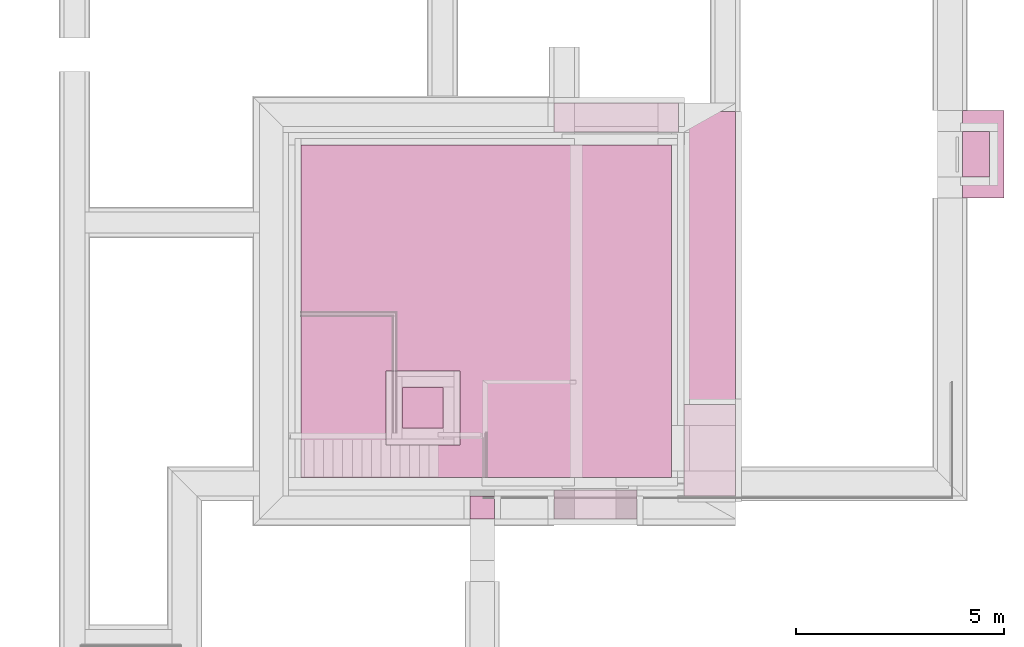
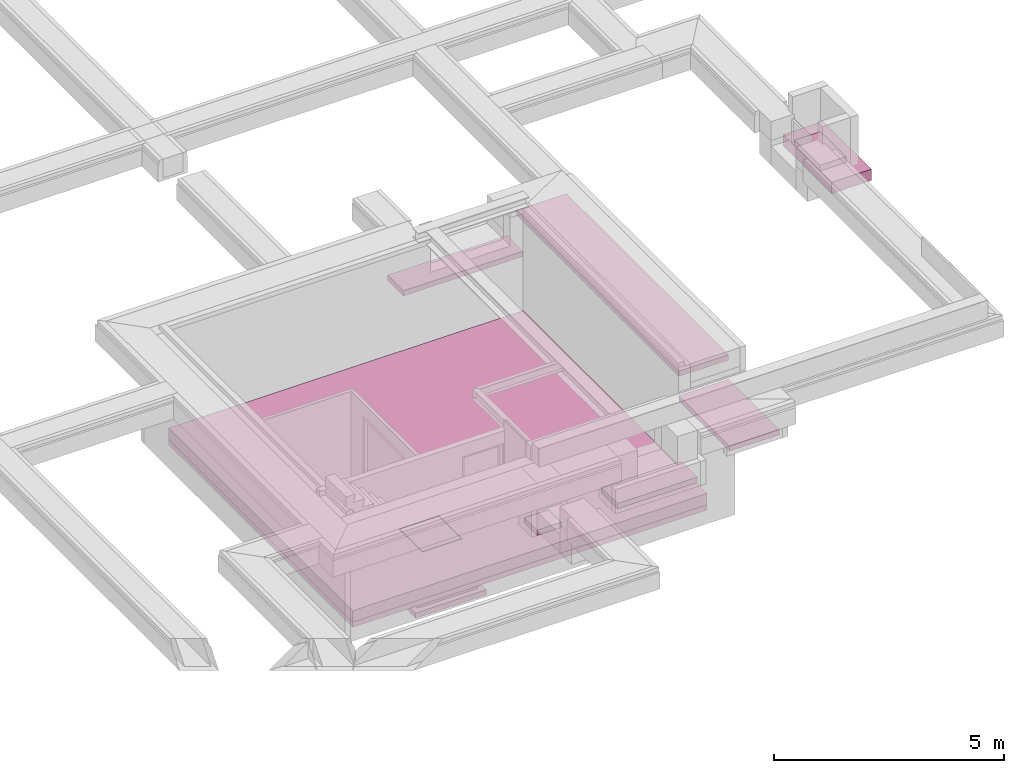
# One storey, part 8 of 11: 12 furnishings.
"""IFC2X3 building model written with IfcOpenShell, lengths in millimetres."""

from ifc_helpers import new_model, entity, si_unit, converted_unit, derived_unit, money_unit, direction, frame, origin_with_axes, place, context, subcontext, project, spatial, faceted_brep, material, type_object, element, save


model = new_model("IFC2X3")

# Units and contexts
model_context = context("Model", 3, precision=0.01, world=origin_with_axes(), true_north=direction((0.0, 1.0)))
body_context = subcontext(model_context, "Body", "Model", "MODEL_VIEW")
ifc_project = project(units=[si_unit("LENGTHUNIT", "METRE", prefix="MILLI"), si_unit("AREAUNIT", "SQUARE_METRE"), si_unit("VOLUMEUNIT", "CUBIC_METRE"), converted_unit("PLANEANGLEUNIT", "DEGREE", entity("IfcPlaneAngleMeasure", 0.0174532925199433), si_unit("PLANEANGLEUNIT", "RADIAN"), dimensions=[0, 0, 0, 0, 0, 0, 0]), money_unit("EUR"), converted_unit("TIMEUNIT", "Year", entity("IfcTimeMeasure", 31556926.0), si_unit("TIMEUNIT", "SECOND"), dimensions=[0, 0, 1, 0, 0, 0, 0]), si_unit("MASSUNIT", "GRAM", prefix="KILO"), si_unit("THERMODYNAMICTEMPERATUREUNIT", "DEGREE_CELSIUS"), si_unit("LUMINOUSINTENSITYUNIT", "LUMEN"), si_unit("ENERGYUNIT", "JOULE", prefix="MEGA"), derived_unit("THERMALCONDUCTANCEUNIT", [(si_unit("POWERUNIT", "WATT"), 1), (si_unit("LENGTHUNIT", "METRE"), -1), (si_unit("THERMODYNAMICTEMPERATUREUNIT", "KELVIN"), -1)]), derived_unit("SPECIFICHEATCAPACITYUNIT", [(si_unit("ENERGYUNIT", "JOULE"), 1), (si_unit("MASSUNIT", "GRAM", prefix="KILO"), -1), (si_unit("THERMODYNAMICTEMPERATUREUNIT", "KELVIN"), -1)]), derived_unit("MASSDENSITYUNIT", [(si_unit("MASSUNIT", "GRAM", prefix="KILO"), 1), (si_unit("VOLUMEUNIT", "CUBIC_METRE"), -1)])], contexts=[model_context])

# Site, building, storey
site_placement = place(None, origin_with_axes())
site = spatial("IfcSite", under=ifc_project, at=site_placement, Name="Site", CompositionType="ELEMENT")
building_placement = place(site_placement, origin_with_axes())
building = spatial("IfcBuilding", under=site, at=building_placement, Name="Naam gebouw", CompositionType="ELEMENT")
storey_placement = place(building_placement, frame((0.0, 0.0, -3060.0), z_axis=(0.0, 0.0, 1.0), x_axis=(1.0, 0.0, 0.0)))
storey = spatial("IfcBuildingStorey", under=building, at=storey_placement, Name="Kelder", CompositionType="ELEMENT", Elevation=-3060.0)

# Furnishings
ifc_material_1 = material(Name="Beton gewapend C vloer")
furniture_type_1 = type_object("IfcFurnitureType", Name="Beton gewapend C vloer 300", AssemblyPlace="NOTDEFINED")
furnishing_1_placement = place(storey_placement, frame((14300.00000000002, 12680.0, 0.0), z_axis=(0.0, 0.0, 1.0), x_axis=(1.0, 0.0, 0.0)))
element("IfcFurnishingElement", 1, at=furnishing_1_placement, inside=storey, type_object=furniture_type_1, material=ifc_material_1, Name="72_", ObjectType="SHELF", context=body_context, shape_type="Brep", body=[
    faceted_brep([(0.0, 0.0, 0.0), (0.0, 0.0, -299.9999999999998), (0.0, -7999.999999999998, -299.9999999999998), (0.0, -7999.999999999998, 0.0), (8900.000000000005, 0.0, 0.0), (8900.000000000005, 0.0, -299.9999999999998), (8900.000000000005, -7999.999999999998, -299.9999999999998), (3424.661580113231, -5825.000000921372, -299.9999999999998), (2424.661580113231, -5825.000000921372, -299.9999999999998), (2424.661580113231, -6825.000000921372, -299.9999999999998), (3424.661580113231, -6825.000000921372, -299.9999999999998), (8900.000000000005, -7999.999999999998, 0.0), (2424.661580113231, -6825.000000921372, 0.0), (2424.661580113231, -5825.000000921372, 0.0), (3424.661580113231, -5825.000000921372, 0.0), (3424.661580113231, -6825.000000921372, 0.0)], [[[0, 1, 2, 3]], [[4, 5, 1, 0]], [[2, 1, 5, 6], [7, 8, 9, 10]], [[3, 2, 6, 11]], [[4, 0, 3, 11], [12, 13, 14, 15]], [[11, 6, 5, 4]], [[13, 8, 7, 14]], [[12, 9, 8, 13]], [[15, 10, 9, 12]], [[14, 7, 10, 15]]]),
])
furnishing_2_placement = place(storey_placement, frame((30200.0000001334, 13500.00011055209, 1725.0), z_axis=(0.0, 0.0, 1.0), x_axis=(1.0, 0.0, 0.0)))
element("IfcFurnishingElement", 2, at=furnishing_2_placement, inside=storey, type_object=furniture_type_1, material=ifc_material_1, Name="72_", ObjectType="SHELF", context=body_context, shape_type="Brep", body=[
    faceted_brep([(0.0, 0.0, -300.0000000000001), (0.0, -2099.999999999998, -300.0000000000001), (0.0, -2099.999999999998, 0.0), (0.0, 0.0, 0.0), (999.999999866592, 0.0, -300.0000000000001), (999.999999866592, -2099.999999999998, -300.0000000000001), (274.9999998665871, -1000.00232888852, -300.0000000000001), (274.9999998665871, -1100.00232888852, -300.0000000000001), (374.9999998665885, -1100.00232888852, -300.0000000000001), (374.9999998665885, -1000.00232888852, -300.0000000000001), (999.999999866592, -2099.999999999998, 0.0), (999.999999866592, 0.0, 0.0), (274.9999998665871, -1000.00232888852, 0.0), (374.9999998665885, -1000.00232888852, 0.0), (374.9999998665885, -1100.00232888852, 0.0), (274.9999998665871, -1100.00232888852, 0.0)], [[[0, 1, 2, 3]], [[0, 4, 5, 1], [6, 7, 8, 9]], [[1, 5, 10, 2]], [[3, 2, 10, 11], [12, 13, 14, 15]], [[4, 0, 3, 11]], [[5, 4, 11, 10]], [[7, 6, 12, 15]], [[8, 7, 15, 14]], [[9, 8, 14, 13]], [[6, 9, 13, 12]]]),
])
ifc_material_2 = material(Name="Grind")
furniture_type_2 = type_object("IfcFurnitureType", Name="Grind 150", AssemblyPlace="NOTDEFINED")
furnishing_3_placement = place(storey_placement, frame((30200.00000006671, 12999.99778166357, 1875.0), z_axis=(0.0, 0.0, 1.0), x_axis=(1.0, 0.0, 0.0)))
element("IfcFurnishingElement", 3, at=furnishing_3_placement, inside=storey, type_object=furniture_type_2, material=ifc_material_2, Name="72_", ObjectType="SHELF", context=body_context, shape_type="Brep", body=[
    faceted_brep([(0.0, 0.0, 0.0), (0.0, 0.0, -149.9999999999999), (0.0, -1100.0, -149.9999999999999), (0.0, -1100.0, 0.0), (649.9999999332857, 0.0, 0.0), (649.9999999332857, 0.0, -149.9999999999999), (649.9999999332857, -1100.0, -149.9999999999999), (649.9999999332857, -1100.0, 0.0)], [[[0, 1, 2, 3]], [[4, 5, 1, 0]], [[2, 1, 5, 6]], [[3, 2, 6, 7]], [[4, 0, 3, 7]], [[7, 6, 5, 4]]]),
])
ifc_material_3 = material(Name="Beton gewapend prefab")
furniture_type_3 = type_object("IfcFurnitureType", Name="Beton gewapend prefab 250", AssemblyPlace="NOTDEFINED")
furnishing_4_placement = place(storey_placement, frame((16474.66158011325, 7104.99999907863, -999.9999999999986), z_axis=(0.0, 0.0, 1.0), x_axis=(1.0, 0.0, 0.0)))
element("IfcFurnishingElement", 4, at=furnishing_4_placement, inside=storey, type_object=furniture_type_3, material=ifc_material_3, Name="72_", ObjectType="SHELF", context=body_context, shape_type="Brep", body=[
    faceted_brep([(0.0, 0.0, 0.0), (0.0, 0.0, -250.0), (0.0, -1500.000000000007, -250.0), (0.0, -1500.000000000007, 0.0), (1500.000000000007, 0.0, 0.0), (1500.000000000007, 0.0, -250.0), (1500.000000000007, -1500.000000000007, -250.0), (1500.000000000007, -1500.000000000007, 0.0)], [[[0, 1, 2, 3]], [[4, 5, 1, 0]], [[2, 1, 5, 6]], [[3, 2, 6, 7]], [[4, 0, 3, 7]], [[7, 6, 5, 4]]]),
])
furniture_type_4 = type_object("IfcFurnitureType", Name="Beton gewapend C vloer 50", AssemblyPlace="NOTDEFINED")
furnishing_5_placement = place(storey_placement, frame((16734.66158011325, 5864.999999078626, 0.0), z_axis=(0.0, 0.0, 1.0), x_axis=(1.0, 0.0, 0.0)))
element("IfcFurnishingElement", 5, at=furnishing_5_placement, inside=storey, type_object=furniture_type_4, material=ifc_material_1, Name="72_", ObjectType="SHELF", context=body_context, shape_type="Brep", body=[
    faceted_brep([(0.0, 0.0, 0.0), (0.0, 0.0, -49.99999999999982), (980.000000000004, 0.0, -49.99999999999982), (980.000000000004, 0.0, 0.0), (0.0, 980.0000000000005, 0.0), (0.0, 980.0000000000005, -49.99999999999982), (980.000000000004, 980.0000000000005, -49.99999999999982), (980.000000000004, 980.0000000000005, 0.0)], [[[0, 1, 2, 3]], [[4, 5, 1, 0]], [[2, 1, 5, 6]], [[3, 2, 6, 7]], [[4, 0, 3, 7]], [[7, 6, 5, 4]]]),
])
ifc_material_4 = material(Name="Isolatie - Kunststof hard")
furniture_type_5 = type_object("IfcFurnitureType", Name="Isolatie - Kunststof hard 140", AssemblyPlace="NOTDEFINED")
furnishing_6_placement = place(storey_placement, frame((14300.00000000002, 12680.0, -299.9999999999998), z_axis=(0.0, 0.0, 1.0), x_axis=(1.0, 0.0, 0.0)))
element("IfcFurnishingElement", 6, at=furnishing_6_placement, inside=storey, type_object=furniture_type_5, material=ifc_material_4, Name="72_", ObjectType="SHELF", context=body_context, shape_type="Brep", body=[
    faceted_brep([(3674.661580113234, -7075.000000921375, -140.0000000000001), (3424.661580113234, -7075.000000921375, -140.0000000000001), (3424.661580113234, -7075.000000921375, 0.0), (3674.661580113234, -7075.000000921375, 0.0), (8900.000000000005, -7999.999999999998, -140.0000000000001), (0.0, -7999.999999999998, -140.0000000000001), (0.0, 0.0, -140.0000000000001), (8900.000000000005, 0.0, -140.0000000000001), (2174.661580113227, -7075.000000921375, -140.0000000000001), (2424.661580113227, -7075.000000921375, -140.0000000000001), (3674.661580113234, -5825.000000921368, -140.0000000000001), (3674.661580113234, -5575.000000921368, -140.0000000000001), (2424.661580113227, -5575.000000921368, -140.0000000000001), (2174.661580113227, -5575.000000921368, -140.0000000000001), (2424.661580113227, -7075.000000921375, 0.0), (8900.000000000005, -7999.999999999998, 0.0), (8900.000000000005, 0.0, 0.0), (0.0, 0.0, 0.0), (0.0, -7999.999999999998, 0.0), (2174.661580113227, -7075.000000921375, 0.0), (2174.661580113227, -5575.000000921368, 0.0), (2424.661580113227, -5575.000000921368, 0.0), (3674.661580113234, -5575.000000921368, 0.0), (3674.661580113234, -5825.000000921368, 0.0)], [[[0, 1, 2, 3]], [[4, 5, 6, 7], [8, 9, 1, 0, 10, 11, 12, 13]], [[9, 14, 2, 1]], [[15, 16, 17, 18], [3, 2, 14, 19, 20, 21, 22, 23]], [[0, 3, 23, 10]], [[15, 18, 5, 4]], [[18, 17, 6, 5]], [[17, 16, 7, 6]], [[16, 15, 4, 7]], [[19, 14, 9, 8]], [[11, 10, 23, 22]], [[11, 22, 21, 12]], [[13, 12, 21, 20]], [[13, 20, 19, 8]]]),
])
furnishing_7_placement = place(storey_placement, frame((16334.66158011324, 7244.999999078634, -1250.0), z_axis=(0.0, 0.0, 1.0), x_axis=(1.0, 0.0, 0.0)))
element("IfcFurnishingElement", 7, at=furnishing_7_placement, inside=storey, type_object=furniture_type_5, material=ifc_material_4, Name="72_", ObjectType="SHELF", context=body_context, shape_type="Brep", body=[
    faceted_brep([(0.0, 0.0, 0.0), (0.0, 0.0, -139.9999999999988), (0.0, -1780.000000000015, -139.9999999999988), (0.0, -1780.000000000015, 0.0), (1780.000000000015, 0.0, 0.0), (1780.000000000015, 0.0, -139.9999999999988), (1780.000000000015, -1780.000000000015, -139.9999999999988), (1780.000000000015, -1780.000000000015, 0.0)], [[[0, 1, 2, 3]], [[4, 5, 1, 0]], [[2, 1, 5, 6]], [[3, 2, 6, 7]], [[4, 0, 3, 7]], [[7, 6, 5, 4]]]),
])
furnishing_8_placement = place(storey_placement, frame((24750.00000000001, 13480.0, 2075.0), z_axis=(0.0, 0.0, 1.0), x_axis=(1.0, 0.0, 0.0)))
element("IfcFurnishingElement", 8, at=furnishing_8_placement, inside=storey, type_object=furniture_type_5, material=ifc_material_4, Name="72_", ObjectType="SHELF", context=body_context, shape_type="Brep", body=[
    faceted_brep([(-1250.0, 0.0, 0.0), (0.0, 0.0, 0.0), (0.0, 0.0, -140.0), (-1250.0, 0.0, -140.0), (-1250.0, -7049.999999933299, 0.0), (0.0, -7049.999999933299, 0.0), (0.0, -7049.999999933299, -140.0), (-1250.0, -7049.999999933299, -140.0)], [[[0, 1, 2, 3]], [[4, 5, 1, 0]], [[1, 5, 6, 2]], [[7, 3, 2, 6]], [[4, 0, 3, 7]], [[5, 4, 7, 6]]]),
])
furnishing_9_placement = place(storey_placement, frame((24750.00000000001, 6430.000000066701, 1425.0), z_axis=(0.0, 0.0, 1.0), x_axis=(1.0, 0.0, 0.0)))
element("IfcFurnishingElement", 9, at=furnishing_9_placement, inside=storey, type_object=furniture_type_5, material=ifc_material_4, Name="72_", ObjectType="SHELF", context=body_context, shape_type="Brep", body=[
    faceted_brep([(-1250.0, 0.0, -140.0000000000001), (-1250.0, 0.0, 0.0), (0.0, 0.0, 0.0), (0.0, 0.0, -140.0000000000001), (-1250.0, -2200.000000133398, -140.0000000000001), (-1250.0, -2200.000000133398, 0.0), (0.0, -2200.000000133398, 0.0), (0.0, -2200.000000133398, -140.0000000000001)], [[[0, 1, 2, 3]], [[4, 5, 1, 0]], [[1, 5, 6, 2]], [[3, 2, 6, 7]], [[7, 4, 0, 3]], [[7, 6, 5, 4]]]),
])
furnishing_10_placement = place(storey_placement, frame((18954.99992785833, 3679.999999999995, 1325.0), z_axis=(0.0, 0.0, 1.0), x_axis=(1.0, 0.0, 0.0)))
element("IfcFurnishingElement", 10, at=furnishing_10_placement, inside=storey, type_object=furniture_type_5, material=ifc_material_4, Name="72_", ObjectType="SHELF", context=body_context, shape_type="Brep", body=[
    faceted_brep([(0.0, 549.999996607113, 0.0), (0.0, 0.0, 0.0), (0.0, 0.0, -140.0000000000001), (0.0, 549.999996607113, -140.0000000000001), (-600.0000001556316, 549.999996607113, 0.0), (-600.0000001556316, 0.0, 0.0), (-600.0000001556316, 0.0, -140.0000000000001), (-600.0000001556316, 549.999996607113, -140.0000000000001)], [[[0, 1, 2, 3]], [[4, 5, 1, 0]], [[1, 5, 6, 2]], [[7, 3, 2, 6]], [[4, 0, 3, 7]], [[5, 4, 7, 6]]]),
])
furnishing_11_placement = place(storey_placement, frame((20375.00005289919, 13680.00005568, 1325.0), z_axis=(0.0, 0.0, 1.0), x_axis=(1.0, 0.0, 0.0)))
element("IfcFurnishingElement", 11, at=furnishing_11_placement, inside=storey, type_object=furniture_type_5, material=ifc_material_4, Name="72_", ObjectType="SHELF", context=body_context, shape_type="Brep", body=[
    faceted_brep([(0.0, -690.4321499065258, -140.0000000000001), (0.0, -690.4321499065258, 0.0), (0.0, 0.0, 0.0), (0.0, 0.0, -140.0000000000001), (3000.0, -690.4321499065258, -140.0000000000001), (3000.0, -690.4321499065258, 0.0), (3000.0, 0.0, 0.0), (3000.0, 0.0, -140.0000000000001)], [[[0, 1, 2, 3]], [[4, 5, 1, 0]], [[1, 5, 6, 2]], [[3, 2, 6, 7]], [[7, 4, 0, 3]], [[7, 6, 5, 4]]]),
])
furnishing_12_placement = place(storey_placement, frame((20375.00004917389, 3679.99999028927, 1325.0), z_axis=(0.0, 0.0, 1.0), x_axis=(1.0, 0.0, 0.0)))
element("IfcFurnishingElement", 12, at=furnishing_12_placement, inside=storey, type_object=furniture_type_5, material=ifc_material_4, Name="72_", ObjectType="SHELF", context=body_context, shape_type="Brep", body=[
    faceted_brep([(2000.000077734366, -4.470352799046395e-05, -140.0000000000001), (2000.000077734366, -4.470352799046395e-05, 0.0), (0.0, 0.0, 0.0), (0.0, 0.0, -140.0000000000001), (2000.000093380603, 699.9999060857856, -140.0000000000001), (2000.000093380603, 699.9999060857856, 0.0), (1.56462363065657e-05, 699.9999507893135, 0.0), (1.56462363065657e-05, 699.9999507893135, -140.0000000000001)], [[[0, 1, 2, 3]], [[4, 5, 1, 0]], [[1, 5, 6, 2]], [[3, 2, 6, 7]], [[7, 4, 0, 3]], [[7, 6, 5, 4]]]),
])

save(model, "model.ifc")
